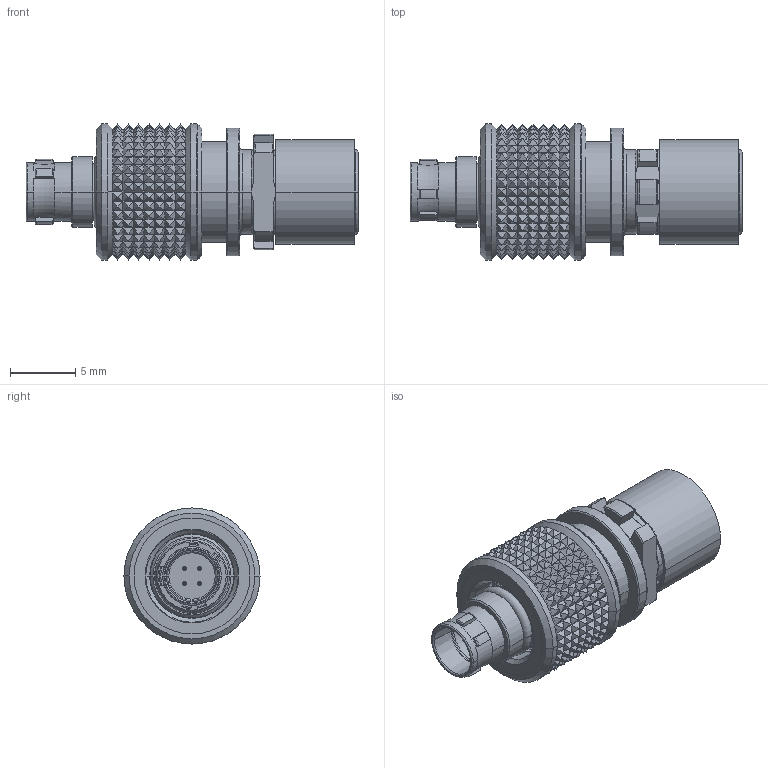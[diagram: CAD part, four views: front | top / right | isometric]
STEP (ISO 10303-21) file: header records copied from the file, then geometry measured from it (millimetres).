
FILE_DESCRIPTION((''),'2;1');
FILE_NAME('00160281--','2019-07-30T',('DTurza'),(''),'PRO/ENGINEER BY PARAMETRIC TECHNOLOGY CORPORATION, 2016360','PRO/ENGINEER BY PARAMETRIC TECHNOLOGY CORPORATION, 2016360','');
FILE_SCHEMA(('AUTOMOTIVE_DESIGN { 1 0 10303 214 1 1 1 1 }'));
Products named in the file (1): 00160281--
Bounding box: 25.5 x 10.45 x 10.45 mm (x, y, z)
Volume: 733.7 mm3; surface area: 2179.4 mm2
Topology: 1 solids, 3 shells, 1596 faces, 3182 edges, 1605 vertices
Faces by surface type: plane 694, cone 664, cylinder 139, torus 83, bspline 8, sphere 8
Entity records: 54483 total; most frequent: CARTESIAN_POINT 12533, ORIENTED_EDGE 6332, DIRECTION 6269, EDGE_CURVE 3166, AXIS2_PLACEMENT_3D 2804, EDGE_LOOP 1631, VERTEX_POINT 1605, FILL_AREA_STYLE_COLOUR 1599
